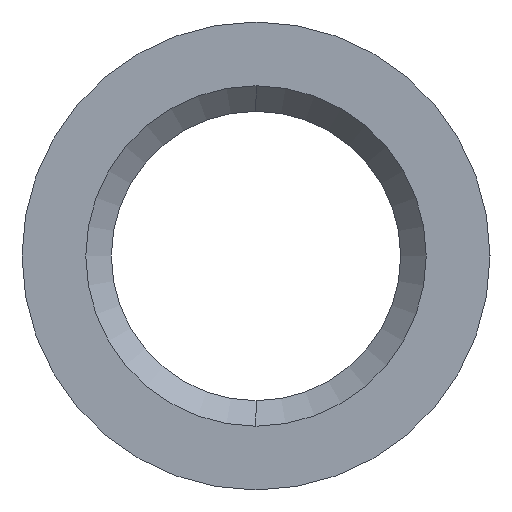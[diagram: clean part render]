
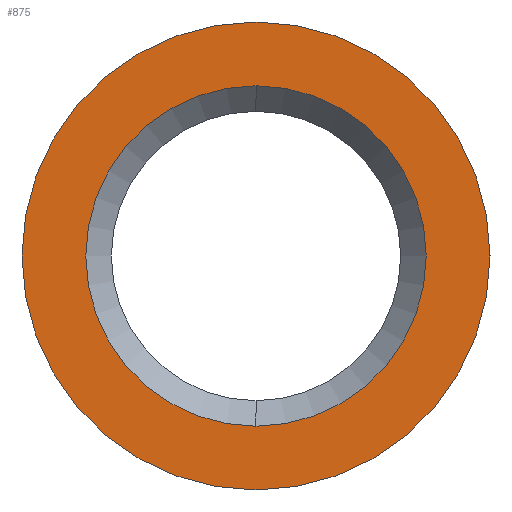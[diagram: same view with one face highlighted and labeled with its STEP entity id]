
A CAD part, left-side view. The second image highlights one B-rep face of the part: STEP entity #875.
In plain terms, the highlighted planar face has unit normal (-1, 0, 0).
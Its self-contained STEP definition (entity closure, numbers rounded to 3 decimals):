
#91 = EDGE_CURVE ( 'NONE', #1173, #439, #1194, .T. ) ;
#145 = DIRECTION ( 'NONE',  ( 0., 0., -1. ) ) ;
#181 = DIRECTION ( 'NONE',  ( -1., 0., 0. ) ) ;
#187 = DIRECTION ( 'NONE',  ( 1., 0., 0. ) ) ;
#198 = EDGE_CURVE ( 'NONE', #238, #951, #757, .T. ) ;
#202 = AXIS2_PLACEMENT_3D ( 'NONE', #625, #187, #863 ) ;
#238 = VERTEX_POINT ( 'NONE', #505 ) ;
#290 = EDGE_LOOP ( 'NONE', ( #1126, #421 ) ) ;
#342 = CIRCLE ( 'NONE', #1100, 4. ) ;
#360 = AXIS2_PLACEMENT_3D ( 'NONE', #1342, #1114, #767 ) ;
#421 = ORIENTED_EDGE ( 'NONE', *, *, #1360, .T. ) ;
#439 = VERTEX_POINT ( 'NONE', #1264 ) ;
#491 = CARTESIAN_POINT ( 'NONE',  ( -14.02, 0., -4. ) ) ;
#505 = CARTESIAN_POINT ( 'NONE',  ( -14.02, 0., 4. ) ) ;
#590 = CARTESIAN_POINT ( 'NONE',  ( -14.02, 0., 0. ) ) ;
#598 = DIRECTION ( 'NONE',  ( 0., 0., 1. ) ) ;
#603 = DIRECTION ( 'NONE',  ( 1., 0., 0. ) ) ;
#610 = DIRECTION ( 'NONE',  ( 0., 0., 1. ) ) ;
#624 = FACE_BOUND ( 'NONE', #290, .T. ) ;
#625 = CARTESIAN_POINT ( 'NONE',  ( -14.02, 0., 0. ) ) ;
#683 = AXIS2_PLACEMENT_3D ( 'NONE', #1418, #1309, #145 ) ;
#735 = FACE_OUTER_BOUND ( 'NONE', #1132, .T. ) ;
#757 = CIRCLE ( 'NONE', #360, 4. ) ;
#767 = DIRECTION ( 'NONE',  ( 0., 0., 1. ) ) ;
#863 = DIRECTION ( 'NONE',  ( 0., 0., -1. ) ) ;
#875 = ADVANCED_FACE ( 'NONE', ( #624, #735 ), #1198, .T. ) ;
#951 = VERTEX_POINT ( 'NONE', #491 ) ;
#954 = AXIS2_PLACEMENT_3D ( 'NONE', #993, #181, #610 ) ;
#982 = ORIENTED_EDGE ( 'NONE', *, *, #1032, .F. ) ;
#993 = CARTESIAN_POINT ( 'NONE',  ( -14.02, 5.5, 0. ) ) ;
#1032 = EDGE_CURVE ( 'NONE', #439, #1173, #1412, .T. ) ;
#1100 = AXIS2_PLACEMENT_3D ( 'NONE', #590, #603, #598 ) ;
#1114 = DIRECTION ( 'NONE',  ( 1., 0., 0. ) ) ;
#1126 = ORIENTED_EDGE ( 'NONE', *, *, #198, .T. ) ;
#1132 = EDGE_LOOP ( 'NONE', ( #1396, #982 ) ) ;
#1173 = VERTEX_POINT ( 'NONE', #1258 ) ;
#1194 = CIRCLE ( 'NONE', #683, 5.5 ) ;
#1198 = PLANE ( 'NONE',  #954 ) ;
#1258 = CARTESIAN_POINT ( 'NONE',  ( -14.02, 0., -5.5 ) ) ;
#1264 = CARTESIAN_POINT ( 'NONE',  ( -14.02, 0., 5.5 ) ) ;
#1309 = DIRECTION ( 'NONE',  ( 1., 0., 0. ) ) ;
#1342 = CARTESIAN_POINT ( 'NONE',  ( -14.02, 0., 0. ) ) ;
#1360 = EDGE_CURVE ( 'NONE', #951, #238, #342, .T. ) ;
#1396 = ORIENTED_EDGE ( 'NONE', *, *, #91, .F. ) ;
#1412 = CIRCLE ( 'NONE', #202, 5.5 ) ;
#1418 = CARTESIAN_POINT ( 'NONE',  ( -14.02, 0., 0. ) ) ;
